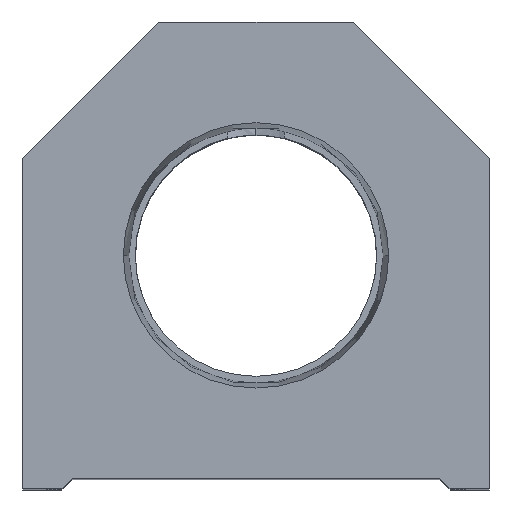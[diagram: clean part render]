
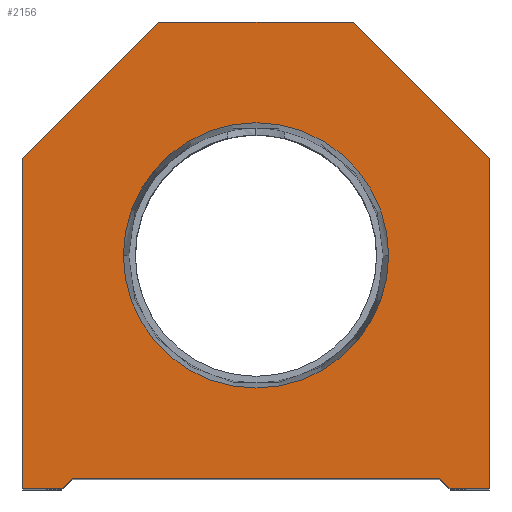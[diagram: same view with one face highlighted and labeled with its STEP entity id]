
A CAD part, top view. The second image highlights one B-rep face of the part: STEP entity #2156.
In plain terms, the highlighted planar face has unit normal (0, 0, 1).
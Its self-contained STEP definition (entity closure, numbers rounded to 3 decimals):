
#43 = DIRECTION ( 'NONE',  ( 1., 0., 0. ) ) ;
#190 = VERTEX_POINT ( 'NONE', #8094 ) ;
#278 = CARTESIAN_POINT ( 'NONE',  ( -22.25, 31.5, 0. ) ) ;
#331 = ORIENTED_EDGE ( 'NONE', *, *, #2779, .T. ) ;
#543 = ORIENTED_EDGE ( 'NONE', *, *, #6668, .T. ) ;
#862 = VECTOR ( 'NONE', #7357, 1000. ) ;
#970 = DIRECTION ( 'NONE',  ( 0.707, -0.707, 0. ) ) ;
#1021 = VECTOR ( 'NONE', #8210, 1000. ) ;
#1105 = EDGE_CURVE ( 'NONE', #6433, #6518, #6180, .T. ) ;
#1259 = LINE ( 'NONE', #8316, #3618 ) ;
#1340 = VERTEX_POINT ( 'NONE', #5887 ) ;
#1510 = DIRECTION ( 'NONE',  ( 1., 0., 0. ) ) ;
#1514 = VERTEX_POINT ( 'NONE', #278 ) ;
#1622 = DIRECTION ( 'NONE',  ( 1., 0., 0. ) ) ;
#1636 = VERTEX_POINT ( 'NONE', #7726 ) ;
#1704 = ORIENTED_EDGE ( 'NONE', *, *, #3858, .T. ) ;
#1919 = LINE ( 'NONE', #4586, #11022 ) ;
#1938 = AXIS2_PLACEMENT_3D ( 'NONE', #3056, #4046, #7575 ) ;
#2138 = VERTEX_POINT ( 'NONE', #6813 ) ;
#2156 = ADVANCED_FACE ( 'NONE', ( #9298, #2295 ), #5772, .T. ) ;
#2254 = CARTESIAN_POINT ( 'NONE',  ( 12.647, 22.25, 0. ) ) ;
#2295 = FACE_OUTER_BOUND ( 'NONE', #8671, .T. ) ;
#2363 = VECTOR ( 'NONE', #10772, 1000. ) ;
#2421 = ORIENTED_EDGE ( 'NONE', *, *, #8903, .T. ) ;
#2685 = CARTESIAN_POINT ( 'NONE',  ( -17.5, 1., 0. ) ) ;
#2779 = EDGE_CURVE ( 'NONE', #1514, #1636, #9189, .T. ) ;
#2932 = DIRECTION ( 'NONE',  ( 1., 0., 0. ) ) ;
#2949 = DIRECTION ( 'NONE',  ( 0., 0., 1. ) ) ;
#3056 = CARTESIAN_POINT ( 'NONE',  ( 0., 0., 0. ) ) ;
#3262 = VECTOR ( 'NONE', #43, 1000. ) ;
#3618 = VECTOR ( 'NONE', #2932, 1000. ) ;
#3858 = EDGE_CURVE ( 'NONE', #1636, #4104, #1259, .T. ) ;
#4046 = DIRECTION ( 'NONE',  ( 0., 0., 1. ) ) ;
#4104 = VERTEX_POINT ( 'NONE', #6558 ) ;
#4252 = EDGE_CURVE ( 'NONE', #1340, #9240, #7947, .T. ) ;
#4376 = CARTESIAN_POINT ( 'NONE',  ( 18.5, 0., 0. ) ) ;
#4378 = EDGE_CURVE ( 'NONE', #6177, #190, #5510, .T. ) ;
#4547 = LINE ( 'NONE', #8079, #9005 ) ;
#4586 = CARTESIAN_POINT ( 'NONE',  ( -22.25, 31.5, 0. ) ) ;
#4600 = CARTESIAN_POINT ( 'NONE',  ( 17.5, 0., 0. ) ) ;
#4921 = EDGE_CURVE ( 'NONE', #2138, #6883, #6286, .T. ) ;
#4967 = AXIS2_PLACEMENT_3D ( 'NONE', #10870, #2949, #8277 ) ;
#5113 = DIRECTION ( 'NONE',  ( -1., 0., 0. ) ) ;
#5149 = EDGE_CURVE ( 'NONE', #6883, #6177, #10717, .T. ) ;
#5372 = CARTESIAN_POINT ( 'NONE',  ( 9.25, 9.25, 0. ) ) ;
#5453 = CARTESIAN_POINT ( 'NONE',  ( 22.25, 0., 0. ) ) ;
#5507 = DIRECTION ( 'NONE',  ( -0.707, -0.707, 0. ) ) ;
#5510 = LINE ( 'NONE', #5453, #862 ) ;
#5580 = LINE ( 'NONE', #9105, #2363 ) ;
#5602 = CARTESIAN_POINT ( 'NONE',  ( -22.25, 0., 0. ) ) ;
#5772 = PLANE ( 'NONE',  #1938 ) ;
#5887 = CARTESIAN_POINT ( 'NONE',  ( 9.25, 44.5, 0. ) ) ;
#6014 = VERTEX_POINT ( 'NONE', #2685 ) ;
#6081 = LINE ( 'NONE', #9601, #10293 ) ;
#6177 = VERTEX_POINT ( 'NONE', #10305 ) ;
#6180 = CIRCLE ( 'NONE', #8949, 12.647 ) ;
#6217 = VECTOR ( 'NONE', #970, 1000. ) ;
#6252 = ORIENTED_EDGE ( 'NONE', *, *, #10151, .T. ) ;
#6286 = LINE ( 'NONE', #5372, #6217 ) ;
#6336 = EDGE_CURVE ( 'NONE', #9240, #1514, #1919, .T. ) ;
#6433 = VERTEX_POINT ( 'NONE', #2254 ) ;
#6518 = VERTEX_POINT ( 'NONE', #7412 ) ;
#6558 = CARTESIAN_POINT ( 'NONE',  ( -18.5, 0., 0. ) ) ;
#6668 = EDGE_CURVE ( 'NONE', #6014, #2138, #6081, .T. ) ;
#6813 = CARTESIAN_POINT ( 'NONE',  ( 17.5, 1., 0. ) ) ;
#6883 = VERTEX_POINT ( 'NONE', #4376 ) ;
#7357 = DIRECTION ( 'NONE',  ( 0., 1., 0. ) ) ;
#7412 = CARTESIAN_POINT ( 'NONE',  ( -12.647, 22.25, 0. ) ) ;
#7575 = DIRECTION ( 'NONE',  ( 1., 0., 0. ) ) ;
#7726 = CARTESIAN_POINT ( 'NONE',  ( -22.25, 0., 0. ) ) ;
#7947 = LINE ( 'NONE', #9554, #10267 ) ;
#8079 = CARTESIAN_POINT ( 'NONE',  ( -9.25, 9.25, 0. ) ) ;
#8094 = CARTESIAN_POINT ( 'NONE',  ( 22.25, 31.5, 0. ) ) ;
#8210 = DIRECTION ( 'NONE',  ( 0., -1., 0. ) ) ;
#8277 = DIRECTION ( 'NONE',  ( 1., 0., 0. ) ) ;
#8316 = CARTESIAN_POINT ( 'NONE',  ( -17.5, 0., 0. ) ) ;
#8671 = EDGE_LOOP ( 'NONE', ( #1704, #2421, #543, #10070, #10017, #8939, #6252, #10933, #9831, #331 ) ) ;
#8742 = EDGE_CURVE ( 'NONE', #6518, #6433, #9941, .T. ) ;
#8771 = DIRECTION ( 'NONE',  ( 0.707, 0.707, 0. ) ) ;
#8903 = EDGE_CURVE ( 'NONE', #4104, #6014, #4547, .T. ) ;
#8939 = ORIENTED_EDGE ( 'NONE', *, *, #4378, .T. ) ;
#8949 = AXIS2_PLACEMENT_3D ( 'NONE', #10397, #10457, #1622 ) ;
#9005 = VECTOR ( 'NONE', #8771, 1000. ) ;
#9105 = CARTESIAN_POINT ( 'NONE',  ( 22.25, 31.5, 0. ) ) ;
#9189 = LINE ( 'NONE', #5602, #1021 ) ;
#9240 = VERTEX_POINT ( 'NONE', #11233 ) ;
#9298 = FACE_BOUND ( 'NONE', #9574, .T. ) ;
#9554 = CARTESIAN_POINT ( 'NONE',  ( 9.25, 44.5, 0. ) ) ;
#9574 = EDGE_LOOP ( 'NONE', ( #11097, #9985 ) ) ;
#9601 = CARTESIAN_POINT ( 'NONE',  ( -17.5, 1., 0. ) ) ;
#9831 = ORIENTED_EDGE ( 'NONE', *, *, #6336, .T. ) ;
#9941 = CIRCLE ( 'NONE', #4967, 12.647 ) ;
#9985 = ORIENTED_EDGE ( 'NONE', *, *, #8742, .F. ) ;
#10017 = ORIENTED_EDGE ( 'NONE', *, *, #5149, .T. ) ;
#10070 = ORIENTED_EDGE ( 'NONE', *, *, #4921, .T. ) ;
#10151 = EDGE_CURVE ( 'NONE', #190, #1340, #5580, .T. ) ;
#10267 = VECTOR ( 'NONE', #5113, 1000. ) ;
#10293 = VECTOR ( 'NONE', #1510, 1000. ) ;
#10305 = CARTESIAN_POINT ( 'NONE',  ( 22.25, 0., 0. ) ) ;
#10397 = CARTESIAN_POINT ( 'NONE',  ( 0., 22.25, 0. ) ) ;
#10457 = DIRECTION ( 'NONE',  ( 0., 0., 1. ) ) ;
#10717 = LINE ( 'NONE', #4600, #3262 ) ;
#10772 = DIRECTION ( 'NONE',  ( -0.707, 0.707, 0. ) ) ;
#10870 = CARTESIAN_POINT ( 'NONE',  ( 0., 22.25, 0. ) ) ;
#10933 = ORIENTED_EDGE ( 'NONE', *, *, #4252, .T. ) ;
#11022 = VECTOR ( 'NONE', #5507, 1000. ) ;
#11097 = ORIENTED_EDGE ( 'NONE', *, *, #1105, .F. ) ;
#11233 = CARTESIAN_POINT ( 'NONE',  ( -9.25, 44.5, 0. ) ) ;
